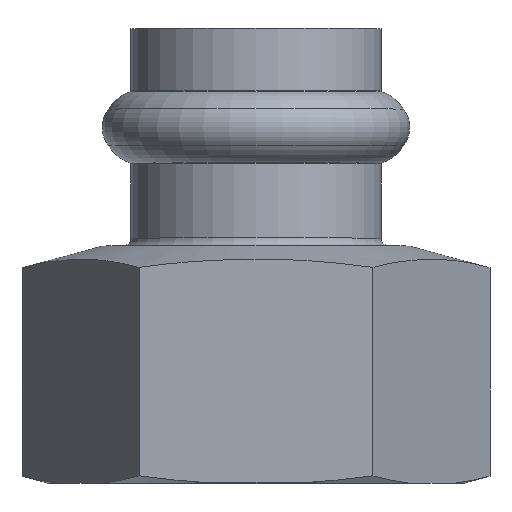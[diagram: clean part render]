
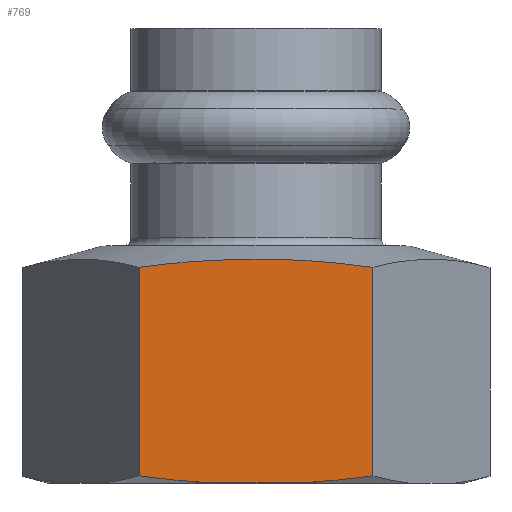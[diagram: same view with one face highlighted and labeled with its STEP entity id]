
A CAD part, top view. The second image highlights one B-rep face of the part: STEP entity #769.
In plain terms, the highlighted planar face has unit normal (0, 0, 1).
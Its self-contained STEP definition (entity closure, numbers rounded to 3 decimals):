
#25=(
BOUNDED_CURVE()
B_SPLINE_CURVE(2,(#1388,#1389,#1390),.UNSPECIFIED.,.F.,.F.)
B_SPLINE_CURVE_WITH_KNOTS((3,3),(0.212,2.659),
 .UNSPECIFIED.)
CURVE()
GEOMETRIC_REPRESENTATION_ITEM()
RATIONAL_B_SPLINE_CURVE((1.03,1.189,1.03))
REPRESENTATION_ITEM('')
);
#26=(
BOUNDED_CURVE()
B_SPLINE_CURVE(2,(#1391,#1392,#1393),.UNSPECIFIED.,.F.,.F.)
B_SPLINE_CURVE_WITH_KNOTS((3,3),(0.,0.75),.UNSPECIFIED.)
CURVE()
GEOMETRIC_REPRESENTATION_ITEM()
RATIONAL_B_SPLINE_CURVE((1.,1.018,1.008))
REPRESENTATION_ITEM('')
);
#27=(
BOUNDED_CURVE()
B_SPLINE_CURVE(2,(#1395,#1396,#1397),.UNSPECIFIED.,.F.,.F.)
B_SPLINE_CURVE_WITH_KNOTS((3,3),(0.231,0.982),
 .UNSPECIFIED.)
CURVE()
GEOMETRIC_REPRESENTATION_ITEM()
RATIONAL_B_SPLINE_CURVE((1.008,1.018,1.))
REPRESENTATION_ITEM('')
);
#60=LINE('',#1299,#88);
#65=LINE('',#1355,#93);
#68=LINE('',#1398,#96);
#88=VECTOR('',#1050,10.);
#93=VECTOR('',#1103,10.);
#96=VECTOR('',#1112,10.);
#154=FACE_OUTER_BOUND('',#205,.T.);
#205=EDGE_LOOP('',(#632,#633,#634,#635,#636,#637));
#338=VERTEX_POINT('',#1296);
#339=VERTEX_POINT('',#1298);
#355=VERTEX_POINT('',#1342);
#357=VERTEX_POINT('',#1351);
#363=VERTEX_POINT('',#1387);
#364=VERTEX_POINT('',#1394);
#429=EDGE_CURVE('',#338,#339,#60,.T.);
#454=EDGE_CURVE('',#355,#357,#65,.T.);
#464=EDGE_CURVE('',#355,#363,#25,.T.);
#465=EDGE_CURVE('',#339,#357,#26,.T.);
#466=EDGE_CURVE('',#364,#338,#27,.T.);
#467=EDGE_CURVE('',#363,#364,#68,.T.);
#632=ORIENTED_EDGE('',*,*,#464,.F.);
#633=ORIENTED_EDGE('',*,*,#454,.T.);
#634=ORIENTED_EDGE('',*,*,#465,.F.);
#635=ORIENTED_EDGE('',*,*,#429,.F.);
#636=ORIENTED_EDGE('',*,*,#466,.F.);
#637=ORIENTED_EDGE('',*,*,#467,.F.);
#740=PLANE('',#890);
#769=ADVANCED_FACE('',(#154),#740,.T.);
#890=AXIS2_PLACEMENT_3D('',#1386,#1110,#1111);
#1050=DIRECTION('',(-1.,0.,0.));
#1103=DIRECTION('',(0.,-1.,0.));
#1110=DIRECTION('center_axis',(0.,0.,
1.));
#1111=DIRECTION('ref_axis',(-1.,0.,0.));
#1112=DIRECTION('',(0.,-1.,0.));
#1296=CARTESIAN_POINT('',(4.555,-46.,20.5));
#1298=CARTESIAN_POINT('',(-4.555,-46.,20.5));
#1299=CARTESIAN_POINT('',(5.918,-46.,20.5));
#1342=CARTESIAN_POINT('',(-11.836,-24.19,20.5));
#1351=CARTESIAN_POINT('',(-11.836,-45.284,20.5));
#1355=CARTESIAN_POINT('',(-11.836,-10.,20.5));
#1386=CARTESIAN_POINT('Origin',(11.836,-10.,20.5));
#1387=CARTESIAN_POINT('',(11.836,-24.19,20.5));
#1388=CARTESIAN_POINT('Ctrl Pts',(-11.836,-24.19,20.5));
#1389=CARTESIAN_POINT('Ctrl Pts',(0.,-22.604,
20.5));
#1390=CARTESIAN_POINT('Ctrl Pts',(11.836,-24.19,20.5));
#1391=CARTESIAN_POINT('Ctrl Pts',(-4.555,-46.,20.5));
#1392=CARTESIAN_POINT('Ctrl Pts',(-7.978,-45.801,20.5));
#1393=CARTESIAN_POINT('Ctrl Pts',(-11.836,-45.284,20.5));
#1394=CARTESIAN_POINT('',(11.836,-45.284,20.5));
#1395=CARTESIAN_POINT('Ctrl Pts',(11.836,-45.284,20.5));
#1396=CARTESIAN_POINT('Ctrl Pts',(7.978,-45.801,20.5));
#1397=CARTESIAN_POINT('Ctrl Pts',(4.555,-46.,20.5));
#1398=CARTESIAN_POINT('',(11.836,-10.,20.5));
